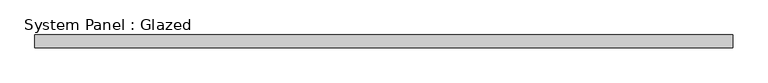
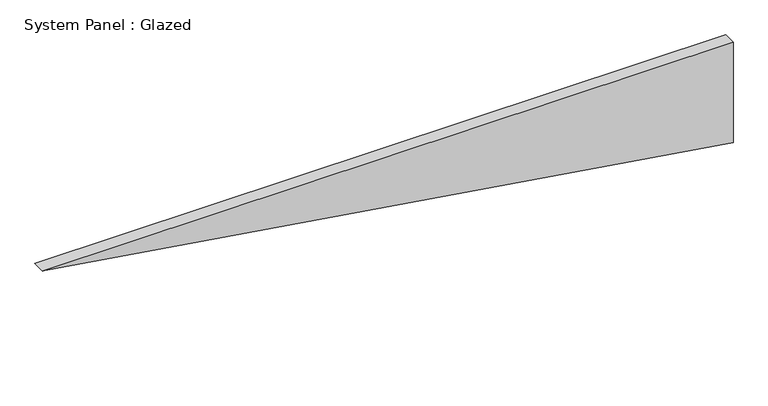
"""IFC4 building model written with IfcOpenShell, lengths in millimetres: plate geometry, System Panel : Glazed."""

from ifc_helpers import new_model, si_unit, frame, origin, place, context, project, spatial, polyline, outline, extrude, source, transform, mapped, element, save


def system_panel_glazed_db298635(model_context):
    return source(origin(), model_context, "Body", "SweptSolid", [
        extrude(outline(polyline([(211.0058884, -686.044579), (0.0, 686.044579), (211.0058884, 686.044579), (211.0058884, -686.044579)])), frame((0.0, 19.05, 0.0), z_axis=(0.0, 1.0, 0.0), x_axis=(0.0, 0.0, 1.0)), (0.0, 0.0, 1.0), 25.4),
    ])


if __name__ == "__main__":
    model = new_model("IFC4")
    model_context = context("Model", 3, world=origin())
    ifc_project = project(units=[si_unit("LENGTHUNIT", "METRE", prefix="MILLI")], contexts=[model_context])
    site = spatial("IfcSite", under=ifc_project)
    building = spatial("IfcBuilding", under=site)
    placement = place(None, origin())
    system_panel_glazed_shape = system_panel_glazed_db298635(model_context)
    element("IfcPlate", 1, ObjectType="System Panel : Glazed", at=placement, inside=building, context=model_context, shape_type="MappedRepresentation", body=[
        mapped(system_panel_glazed_shape, transform((0.0, 0.0, 0.0), x_axis=(1.0, 0.0, 0.0), y_axis=(0.0, 1.0, 0.0), z_axis=(0.0, 0.0, 1.0))),
    ])
    save(model, "model.ifc")
